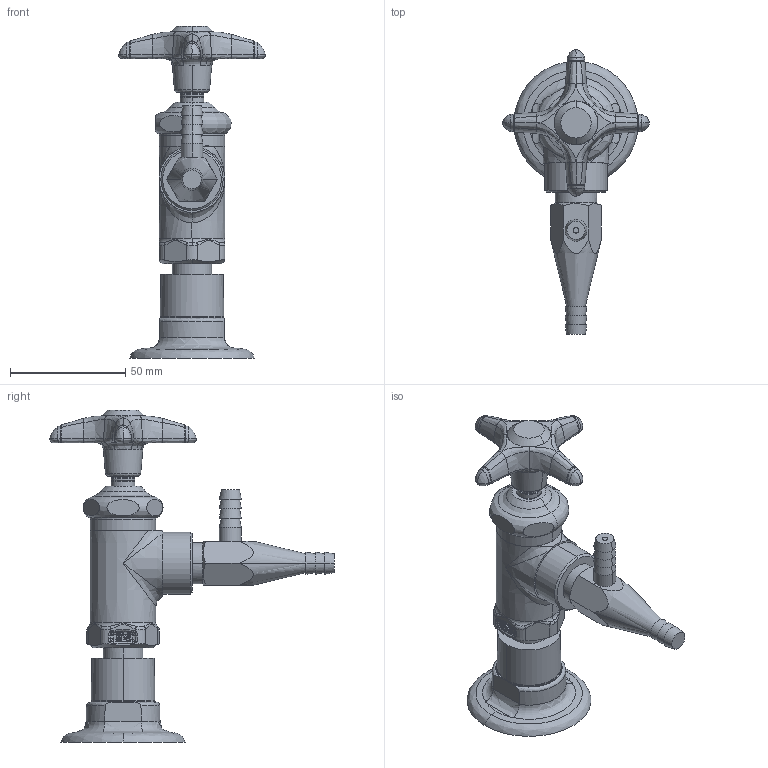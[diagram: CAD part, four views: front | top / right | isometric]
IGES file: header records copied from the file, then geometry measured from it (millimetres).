
Start section:  PTC IGES file: LWV2-C32-50.igs
Global section: file name: LWV2-C32-50.igs; native system: Creo Parametric by PTC Inc.; preprocessor: 2014500; author: usch_engrender; organization: Unknown; date: 20151117.120435; units: inch
Bounding box: 63.42 x 123.15 x 143.82 mm (x, y, z)
Volume: 111886.2 mm3; surface area: 28320.4 mm2
Topology: 1 solids, 5 shells, 508 faces, 1170 edges, 696 vertices
Faces by surface type: bspline 282, revolution 226
